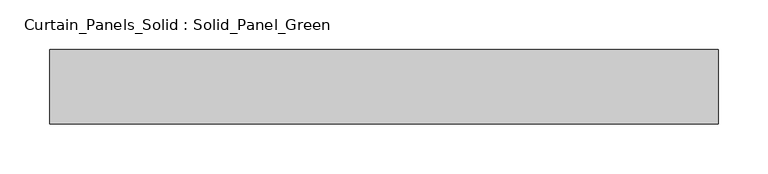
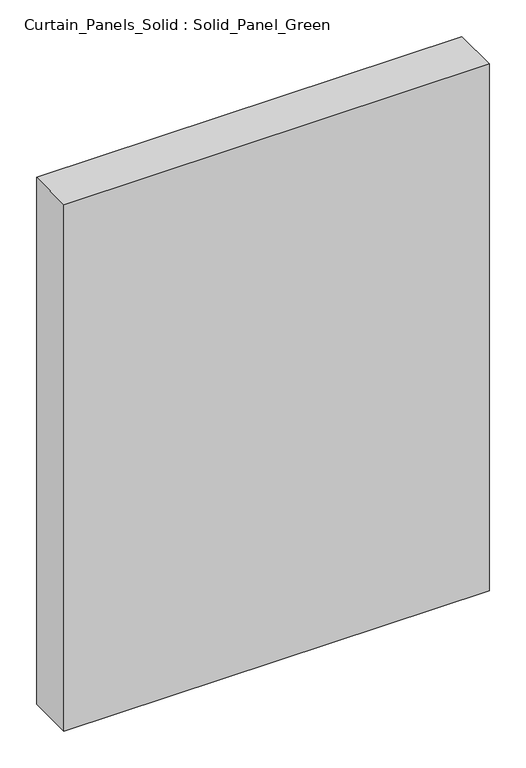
"""IFC4 building model written with IfcOpenShell, lengths in millimetres: plate geometry, Curtain_Panels_Solid : Solid_Panel_Green."""

from ifc_helpers import new_model, si_unit, origin, origin_with_axes, place, context, project, spatial, polyline, outline, extrude, source, transform, mapped, element, save


def curtain_panels_solid_solid_panel_green_873f3444(model_context):
    return source(origin(), model_context, "Body", "SweptSolid", [
        extrude(outline(polyline([(335.8333334, -25.0), (-335.8333334, -25.0), (-335.8333334, 50.0), (335.8333334, 50.0), (335.8333334, -25.0)])), origin_with_axes(), (0.0, 0.0, 1.0), 880.0),
    ])


if __name__ == "__main__":
    model = new_model("IFC4")
    model_context = context("Model", 3, world=origin())
    ifc_project = project(units=[si_unit("LENGTHUNIT", "METRE", prefix="MILLI")], contexts=[model_context])
    site = spatial("IfcSite", under=ifc_project)
    building = spatial("IfcBuilding", under=site)
    placement = place(None, origin())
    curtain_panels_solid_solid_panel_green_shape = curtain_panels_solid_solid_panel_green_873f3444(model_context)
    element("IfcPlate", 1, ObjectType="Curtain_Panels_Solid : Solid_Panel_Green", at=placement, inside=building, context=model_context, shape_type="MappedRepresentation", body=[
        mapped(curtain_panels_solid_solid_panel_green_shape, transform((0.0, 0.0, 0.0), x_axis=(1.0, 0.0, 0.0), y_axis=(0.0, 1.0, 0.0), z_axis=(0.0, 0.0, 1.0))),
    ])
    save(model, "model.ifc")
